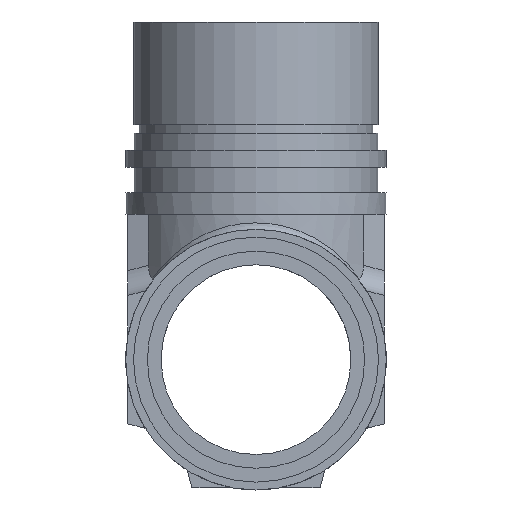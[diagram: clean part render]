
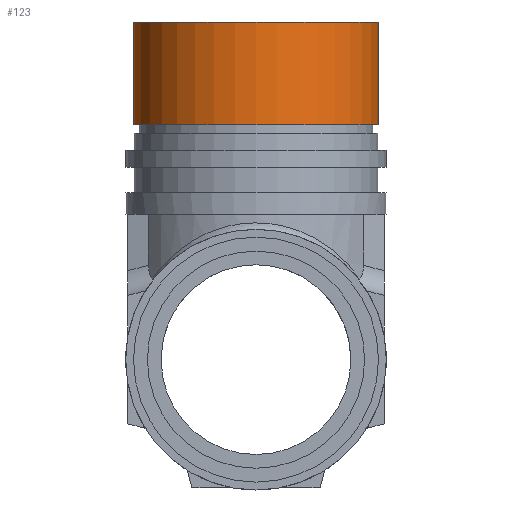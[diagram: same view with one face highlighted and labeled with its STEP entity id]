
A CAD part, left-side view. The second image highlights one B-rep face of the part: STEP entity #123.
In plain terms, the highlighted cylindrical face has radius 14.325 mm (diameter 28.65 mm), a full revolution.
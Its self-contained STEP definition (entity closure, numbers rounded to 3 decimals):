
#123 = ADVANCED_FACE( '', ( #287, #288 ), #289, .T. );
#287 = FACE_OUTER_BOUND( '', #946, .T. );
#288 = FACE_OUTER_BOUND( '', #947, .T. );
#289 = CYLINDRICAL_SURFACE( '', #948, 14.325 );
#946 = EDGE_LOOP( '', ( #1447 ) );
#947 = EDGE_LOOP( '', ( #1448 ) );
#948 = AXIS2_PLACEMENT_3D( '', #1449, #1450, #1451 );
#1447 = ORIENTED_EDGE( '', *, *, #1916, .T. );
#1448 = ORIENTED_EDGE( '', *, *, #1917, .F. );
#1449 = CARTESIAN_POINT( '', ( 0., 0., 54. ) );
#1450 = DIRECTION( '', ( 0., 0., -1. ) );
#1451 = DIRECTION( '', ( 1., 0., 0. ) );
#1916 = EDGE_CURVE( '', #2210, #2210, #2211, .T. );
#1917 = EDGE_CURVE( '', #2212, #2212, #2213, .T. );
#2210 = VERTEX_POINT( '', #2778 );
#2211 = CIRCLE( '', #2779, 14.325 );
#2212 = VERTEX_POINT( '', #2780 );
#2213 = CIRCLE( '', #2781, 14.325 );
#2778 = CARTESIAN_POINT( '', ( 14.325, 0., 27.5 ) );
#2779 = AXIS2_PLACEMENT_3D( '', #3068, #3069, #3070 );
#2780 = CARTESIAN_POINT( '', ( 14.325, 0., 39.5 ) );
#2781 = AXIS2_PLACEMENT_3D( '', #3071, #3072, #3073 );
#3068 = CARTESIAN_POINT( '', ( 0., 0., 27.5 ) );
#3069 = DIRECTION( '', ( 0., 0., 1. ) );
#3070 = DIRECTION( '', ( 1., 0., 0. ) );
#3071 = CARTESIAN_POINT( '', ( 0., 0., 39.5 ) );
#3072 = DIRECTION( '', ( 0., 0., 1. ) );
#3073 = DIRECTION( '', ( 1., 0., 0. ) );
